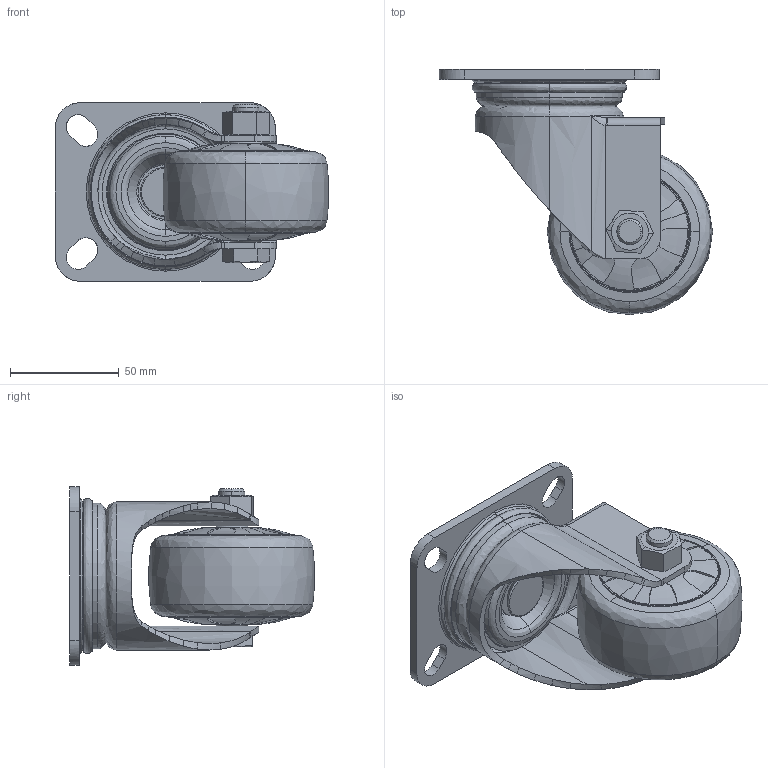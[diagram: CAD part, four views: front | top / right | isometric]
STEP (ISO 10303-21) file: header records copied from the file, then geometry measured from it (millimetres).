
FILE_DESCRIPTION (( 'STEP AP203' ), '1' );
FILE_NAME ('3渡勀砃湍价陬.STEP', '2024-12-26T05:35:44', ( '' ), ( '' ), 'SwSTEP 2.0', 'SolidWorks 2023', '' );
FILE_SCHEMA (( 'CONFIG_CONTROL_DESIGN' ));
Length unit declared in the file: millimetre
Products named in the file (4): B05S-01-75-612^3寸万向带刹车(2)_3寸万向带刹车; 3寸万向带刹车(2)^3寸万向带刹车; 防尘盖^3寸万向带刹车(2)_3寸万向带刹车; 3寸万向带刹车
Assembly tree (4 placements, depth 3):
  3寸万向带刹车
    3寸万向带刹车(2)^3寸万向带刹车
      B05S-01-75-612^3寸万向带刹车(2)_3寸万向带刹车
      防尘盖^3寸万向带刹车(2)_3寸万向带刹车  x2
Bounding box: 125.5 x 112.5 x 82 mm (x, y, z)
Volume: 272827.9 mm3; surface area: 164070.8 mm2
Topology: 86 solids, 86 shells, 1590 faces, 4103 edges, 2403 vertices
Faces by surface type: bspline 1406, plane 104, cylinder 76, torus 4
Entity records: 79674 total; most frequent: CARTESIAN_POINT 51271, ORIENTED_EDGE 7460, EDGE_CURVE 3730, DIRECTION 3286, VERTEX_POINT 2347, EDGE_LOOP 1679, ADVANCED_FACE 1550, FACE_OUTER_BOUND 1550
